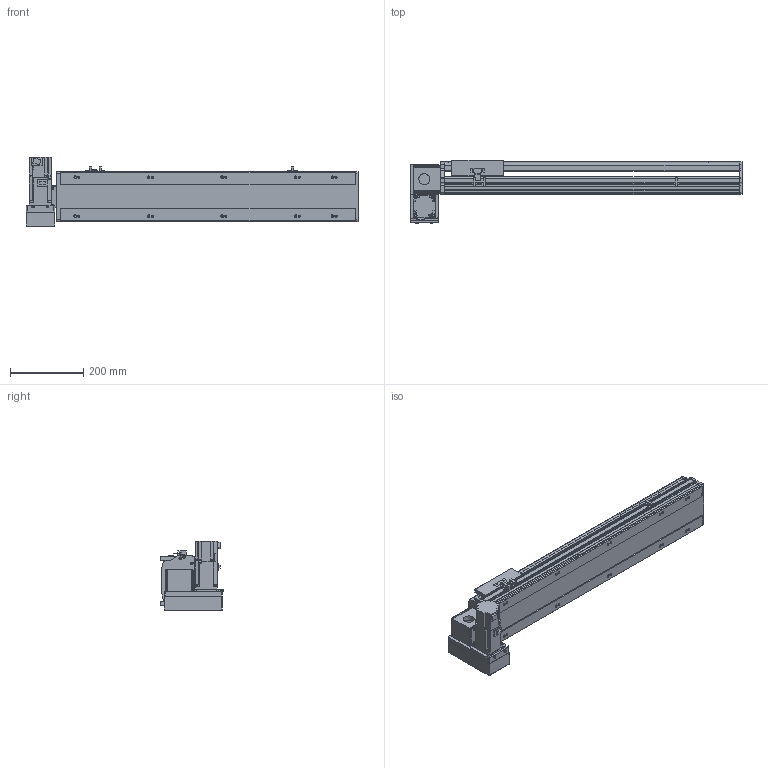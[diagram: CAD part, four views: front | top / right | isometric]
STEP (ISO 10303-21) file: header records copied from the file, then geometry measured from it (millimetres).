
FILE_DESCRIPTION(/* description */ ('STEP AP214'),/* implementation_level */ '2;1');
FILE_NAME(/* name */ 'PBS140S-P40-S550-LD-T40-C1-N(0)',/* time_stamp */ '2022-06-09T02:24:05+02:00',/* author */ ('License CC BY-ND 4.0'),/* organization */ ('CADENAS'),/* preprocessor_version */ 'ST-DEVELOPER v18.102',/* originating_system */ 'PARTsolutions',/* authorisation */ ' ');
FILE_SCHEMA (('AUTOMOTIVE_DESIGN {1 0 10303 214 3 1 1}'));
Length unit declared in the file: millimetre
Products named in the file (7): PBS140S-P40-S550-LD-T40-C1-N(0); PBS140S_sensor; PBS140S_plant; PBS140S_sliser; T40-p1; PBS140ST-LD_motors; PBS140S-S550()_body
Assembly tree (8 placements, depth 2):
  PBS140S-P40-S550-LD-T40-C1-N(0)
    PBS140S_sensor  x3
    PBS140S_plant
    PBS140S_sliser
    T40-p1
    PBS140ST-LD_motors
    PBS140S-S550()_body
Bounding box: 904 x 172.5 x 189.7 mm (x, y, z)
Volume: 4989762.3 mm3; surface area: 883988.2 mm2
Topology: 8 solids, 8 shells, 1051 faces, 2791 edges, 1827 vertices
Faces by surface type: plane 684, cylinder 321, cone 36, sphere 8, torus 2
Full cylindrical faces by diameter (mm): 3.242 x4, 4 x2, 4.134 x4, 4.4 x8, 4.5 x2, 4.8 x4, 4.917 x18, 5.5 x7, 6 x2, 7 x12, 7.5 x8, 8 x12, 8.5 x4, 10.5 x10, 14 x1, 30 x2, 50 x2
Entity records: 30122 total; most frequent: CARTESIAN_POINT 5480, DIRECTION 5138, ORIENTED_EDGE 4882, EDGE_CURVE 2441, AXIS2_PLACEMENT_3D 1769, VERTEX_POINT 1681, LINE 1600, VECTOR 1600
